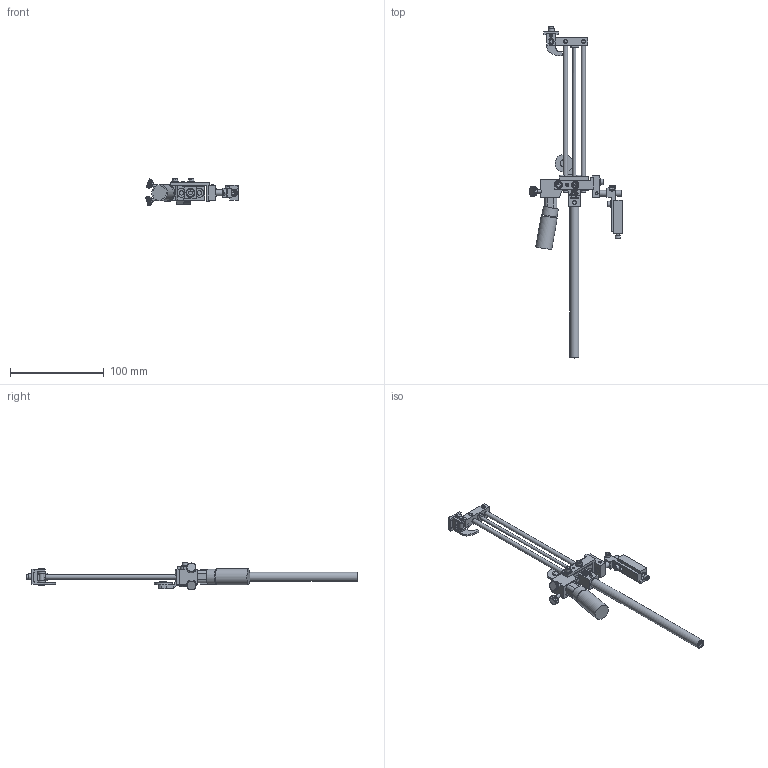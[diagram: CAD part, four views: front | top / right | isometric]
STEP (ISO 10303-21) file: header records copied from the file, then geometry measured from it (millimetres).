
FILE_DESCRIPTION((''),'2;1');
FILE_NAME('C:\Documents and Settings\Ron\My Documents\Inventor\Sprinter Drawing\Machines in Inventor\Model 22\Dot\3-sixth\Ext Str\E4\Brkt\Ext\Model 22 ES 4 3-16 dot ext w brkt.stp','2009-01-29T13:11:27',('Ron'),(''),'Autodesk Inventor 2008','Autodesk Inventor 2008','');
FILE_SCHEMA(('AUTOMOTIVE_DESIGN { 1 0 10303 214 1 1 1 1 }'));
Length unit declared in the file: inch
Products named in the file (1): Model 22 ES 4 3-16 dot ext w brkt
Bounding box: 99.17 x 354.51 x 29.56 mm (x, y, z)
Volume: 68302.3 mm3; surface area: 41582.4 mm2
Topology: 13 solids, 13 shells, 4734 faces, 13179 edges, 8731 vertices
Faces by surface type: plane 2891, bspline 1289, cylinder 484, cone 56, torus 14
Full cylindrical faces by diameter (mm): 2.845 x3, 2.946 x2, 3.175 x4, 3.505 x7, 3.556 x2, 3.658 x2, 3.876 x1, 3.962 x9, 4.064 x1, 4.166 x3, 4.648 x2, 4.699 x1, 4.75 x1, 4.763 x2, 4.775 x3, 4.788 x1, 5.41 x2, 5.74 x6, 6.096 x1, 6.325 x2, 6.35 x4, 6.477 x1, 6.655 x1, 7.925 x4, 7.938 x1, 8.128 x1, 9.462 x1, 9.525 x1, 10.922 x1, 11.938 x1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
Entity records: 166454 total; most frequent: CARTESIAN_POINT 49661, ORIENTED_EDGE 25822, DIRECTION 18465, EDGE_CURVE 12911, VECTOR 9081, LINE 9081, VERTEX_POINT 8641, EDGE_LOOP 5272
